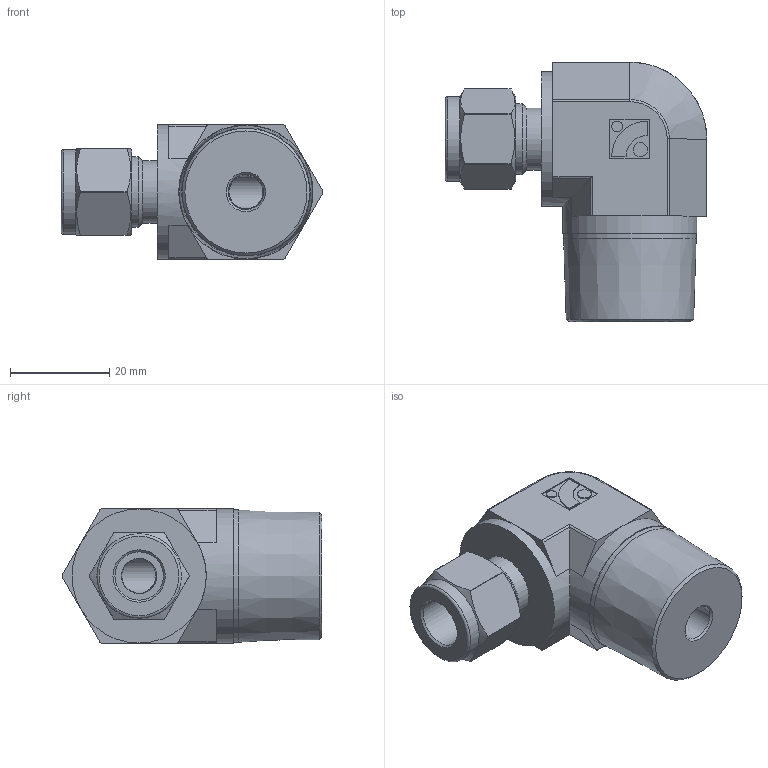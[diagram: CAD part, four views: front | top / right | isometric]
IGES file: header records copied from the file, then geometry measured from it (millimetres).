
Global section: file name: No Iges File Name specified; native system: Autodesk Inventor 2012; preprocessor: AutoDesk Inventor Iges Exporter R2012; author: 硅己绕,, ; organization: 11; date: 20150703.114128; units: millimetre
Bounding box: 52.73 x 52.31 x 27 mm (x, y, z)
Volume: 32404.8 mm3; surface area: 8838.5 mm2
Topology: 1 solids, 1 shells, 84 faces, 194 edges, 120 vertices
Faces by surface type: plane 42, cylinder 25, cone 7, revolution 6, torus 4
Full cylindrical faces by diameter (mm): 2.16 x1, 2.88 x1, 12.5 x1, 14.28 x1, 17 x1, 26.67 x1, 27 x2
